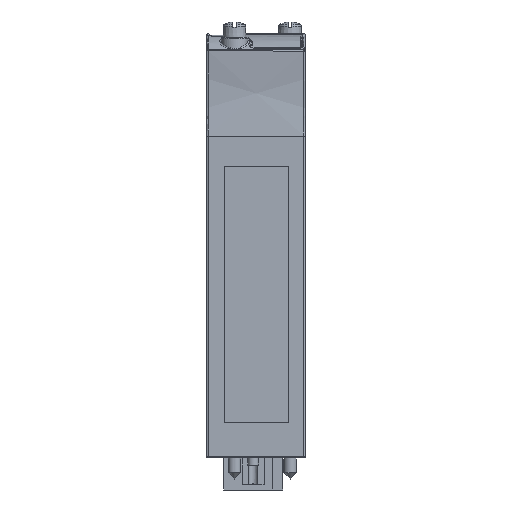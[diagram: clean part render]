
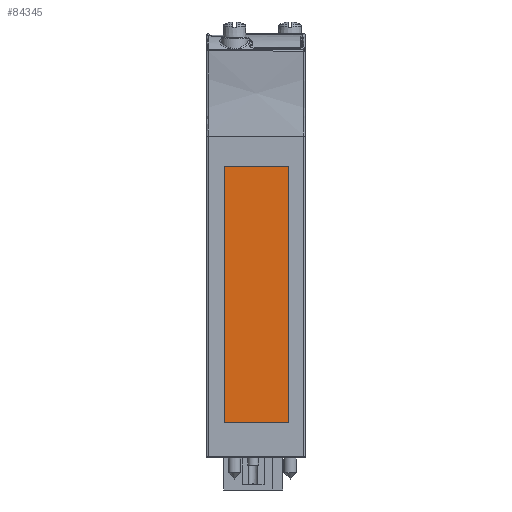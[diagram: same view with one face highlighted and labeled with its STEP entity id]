
A CAD part, front view. The second image highlights one B-rep face of the part: STEP entity #84345.
In plain terms, the highlighted planar face has unit normal (-0.009, -1, 0).
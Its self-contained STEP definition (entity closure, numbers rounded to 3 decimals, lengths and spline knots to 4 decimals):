
#28587=DIRECTION('',(0.,0.,1.));
#28588=VECTOR('',#28587,2.);
#28589=CARTESIAN_POINT('',(0.6349,-2.0523,0.275));
#28590=LINE('',#28589,#28588);
#28591=DIRECTION('',(1.,-0.009,0.));
#28592=VECTOR('',#28591,0.5);
#28593=CARTESIAN_POINT('',(0.1349,-2.0479,0.275));
#28594=LINE('',#28593,#28592);
#28595=DIRECTION('',(0.,0.,-1.));
#28596=VECTOR('',#28595,2.);
#28597=CARTESIAN_POINT('',(0.1349,-2.0479,2.275));
#28598=LINE('',#28597,#28596);
#28599=DIRECTION('',(-1.,0.009,0.));
#28600=VECTOR('',#28599,0.5);
#28601=CARTESIAN_POINT('',(0.6349,-2.0523,2.275));
#28602=LINE('',#28601,#28600);
#41473=CARTESIAN_POINT('',(0.6349,-2.0523,0.275));
#41474=CARTESIAN_POINT('',(0.6349,-2.0523,2.275));
#41475=VERTEX_POINT('',#41473);
#41476=VERTEX_POINT('',#41474);
#41477=CARTESIAN_POINT('',(0.1349,-2.0479,2.275));
#41478=VERTEX_POINT('',#41477);
#41479=CARTESIAN_POINT('',(0.1349,-2.0479,0.275));
#41480=VERTEX_POINT('',#41479);
#84334=CARTESIAN_POINT('',(0.6349,-2.0523,0.275));
#84335=DIRECTION('',(-0.009,-1.,0.));
#84336=DIRECTION('',(0.,0.,1.));
#84337=AXIS2_PLACEMENT_3D('',#84334,#84335,#84336);
#84338=PLANE('',#84337);
#84339=ORIENTED_EDGE('',*,*,#84286,.F.);
#84340=ORIENTED_EDGE('',*,*,#84301,.F.);
#84341=ORIENTED_EDGE('',*,*,#84315,.F.);
#84342=ORIENTED_EDGE('',*,*,#84328,.F.);
#84343=EDGE_LOOP('',(#84339,#84340,#84341,#84342));
#84344=FACE_OUTER_BOUND('',#84343,.F.);
#84345=ADVANCED_FACE('',(#84344),#84338,.T.);
#84286=EDGE_CURVE('',#41475,#41476,#28590,.T.);
#84301=EDGE_CURVE('',#41480,#41475,#28594,.T.);
#84315=EDGE_CURVE('',#41478,#41480,#28598,.T.);
#84328=EDGE_CURVE('',#41476,#41478,#28602,.T.);
